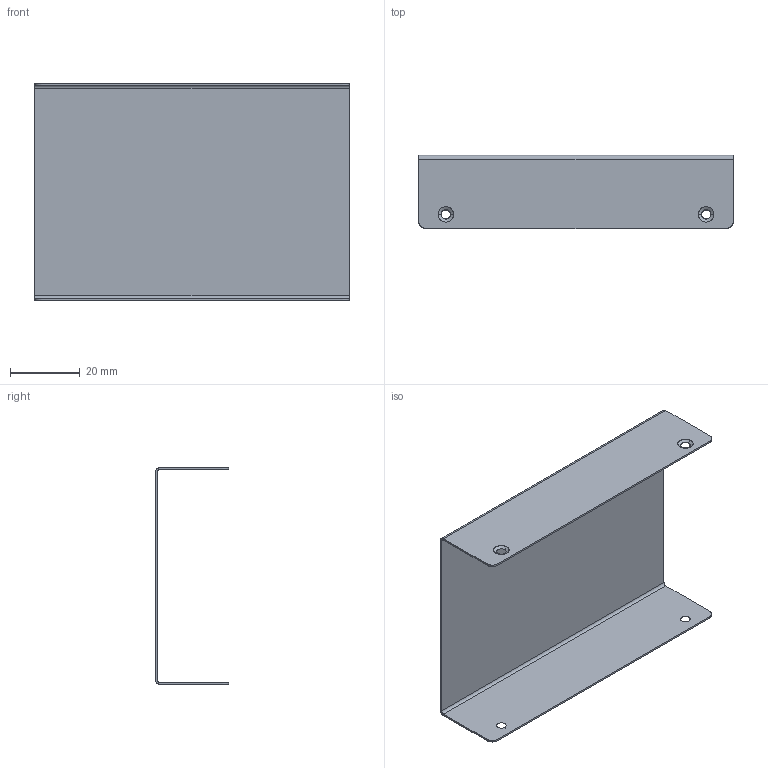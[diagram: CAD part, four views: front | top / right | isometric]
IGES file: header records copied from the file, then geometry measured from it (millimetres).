
Start section: SolidWorks IGES file using analytic representation for surfaces
Global section: file name: C:\Users\hans.brakeley\Desktop\Project Work\GIT\BB100\IGS\Chassis_Top.IGS; native system: SolidWorks 2013; preprocessor: SolidWorks 2013; author: hans.brakeley; date: 130710.140302; units: millimetre
Bounding box: 89.98 x 20.92 x 61.99 mm (x, y, z)
Surface area: 18493.9 mm2 (no closed solid volume)
Topology: 0 solids, 0 shells, 34 faces, 496 edges, 496 vertices
Faces by surface type: bspline 18, revolution 16
